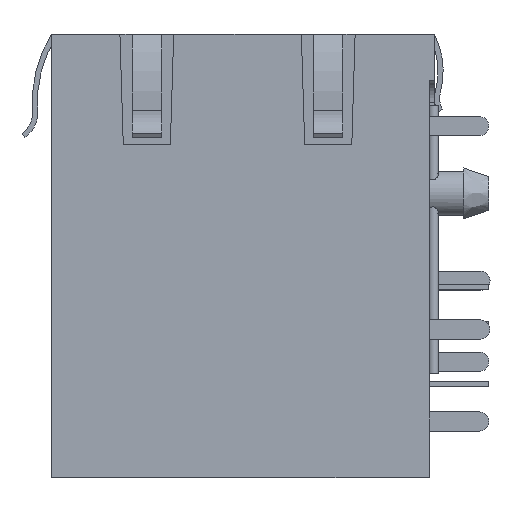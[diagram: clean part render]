
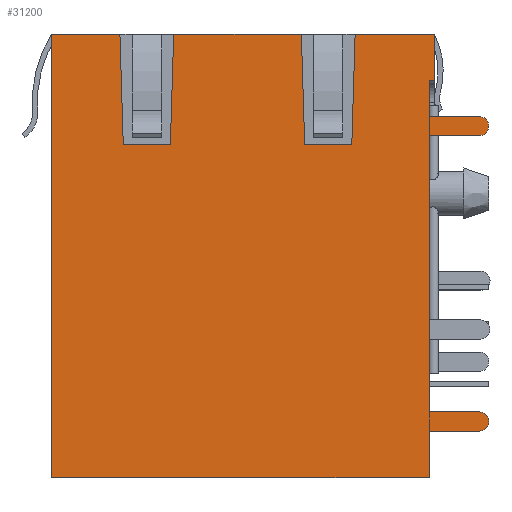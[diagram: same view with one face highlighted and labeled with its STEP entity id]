
A CAD part, left-side view. The second image highlights one B-rep face of the part: STEP entity #31200.
In plain terms, the highlighted planar face has unit normal (-1, 0, 0).
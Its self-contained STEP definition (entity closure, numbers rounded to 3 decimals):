
#66=DIRECTION('',(0.,0.,1.));
#67=VECTOR('',#66,18.76);
#68=CARTESIAN_POINT('',(-43.975,-12.65,-25.64));
#69=LINE('',#68,#67);
#82=DIRECTION('',(0.,0.,1.));
#83=VECTOR('',#82,2.48);
#84=CARTESIAN_POINT('',(-43.975,-12.65,-5.58));
#85=LINE('',#84,#83);
#172=DIRECTION('',(0.,0.,1.));
#173=VECTOR('',#172,3.16);
#174=CARTESIAN_POINT('',(-43.975,-12.65,-30.1));
#175=LINE('',#174,#173);
#2223=DIRECTION('',(0.,1.,0.));
#2224=VECTOR('',#2223,3.4);
#2225=CARTESIAN_POINT('',(-43.975,-16.05,-5.58));
#2226=LINE('',#2225,#2224);
#2227=CARTESIAN_POINT('',(-43.975,-16.05,-6.23));
#2228=DIRECTION('',(-1.,0.,0.));
#2229=DIRECTION('',(0.,0.,-1.));
#2230=AXIS2_PLACEMENT_3D('',#2227,#2228,#2229);
#2232=DIRECTION('',(0.,-1.,0.));
#2233=VECTOR('',#2232,3.4);
#2234=CARTESIAN_POINT('',(-43.975,-12.65,-6.88));
#2235=LINE('',#2234,#2233);
#2236=DIRECTION('',(0.,1.,0.));
#2237=VECTOR('',#2236,3.4);
#2238=CARTESIAN_POINT('',(-43.975,-16.05,-25.64));
#2239=LINE('',#2238,#2237);
#2240=CARTESIAN_POINT('',(-43.975,-16.05,-26.29));
#2241=DIRECTION('',(-1.,0.,0.));
#2242=DIRECTION('',(0.,0.,-1.));
#2243=AXIS2_PLACEMENT_3D('',#2240,#2241,#2242);
#2245=DIRECTION('',(0.,-1.,0.));
#2246=VECTOR('',#2245,3.4);
#2247=CARTESIAN_POINT('',(-43.975,-12.65,-26.94));
#2248=LINE('',#2247,#2246);
#2249=DIRECTION('',(0.,-0.03,-1.));
#2250=VECTOR('',#2249,7.503);
#2251=CARTESIAN_POINT('',(-43.975,8.35,0.));
#2252=LINE('',#2251,#2250);
#2253=DIRECTION('',(0.,-1.,0.));
#2254=VECTOR('',#2253,3.2);
#2255=CARTESIAN_POINT('',(-43.975,8.125,-7.5));
#2256=LINE('',#2255,#2254);
#2257=DIRECTION('',(0.,-0.03,1.));
#2258=VECTOR('',#2257,7.503);
#2259=CARTESIAN_POINT('',(-43.975,4.925,-7.5));
#2260=LINE('',#2259,#2258);
#2261=DIRECTION('',(0.,-0.03,-1.));
#2262=VECTOR('',#2261,7.503);
#2263=CARTESIAN_POINT('',(-43.975,-3.97,0.));
#2264=LINE('',#2263,#2262);
#2265=DIRECTION('',(0.,-1.,0.));
#2266=VECTOR('',#2265,3.2);
#2267=CARTESIAN_POINT('',(-43.975,-4.195,-7.5));
#2268=LINE('',#2267,#2266);
#2269=DIRECTION('',(0.,-0.03,1.));
#2270=VECTOR('',#2269,7.503);
#2271=CARTESIAN_POINT('',(-43.975,-7.395,-7.5));
#2272=LINE('',#2271,#2270);
#2293=DIRECTION('',(0.,-1.,0.));
#2294=VECTOR('',#2293,25.65);
#2295=CARTESIAN_POINT('',(-43.975,13.,-30.1));
#2296=LINE('',#2295,#2294);
#5559=DIRECTION('',(0.,1.,0.));
#5560=VECTOR('',#5559,8.67);
#5561=CARTESIAN_POINT('',(-43.975,-3.97,0.));
#5562=LINE('',#5561,#5560);
#5583=DIRECTION('',(0.,1.,0.));
#5584=VECTOR('',#5583,4.65);
#5585=CARTESIAN_POINT('',(-43.975,8.35,0.));
#5586=LINE('',#5585,#5584);
#5771=DIRECTION('',(0.,1.,0.));
#5772=VECTOR('',#5771,5.38);
#5773=CARTESIAN_POINT('',(-43.975,-13.,0.));
#5774=LINE('',#5773,#5772);
#17819=DIRECTION('',(0.,0.,1.));
#17820=VECTOR('',#17819,30.1);
#17821=CARTESIAN_POINT('',(-43.975,13.,-30.1));
#17822=LINE('',#17821,#17820);
#18879=DIRECTION('',(0.,0.,-1.));
#18880=VECTOR('',#18879,3.1);
#18881=CARTESIAN_POINT('',(-43.975,-13.,0.));
#18882=LINE('',#18881,#18880);
#18995=DIRECTION('',(0.,-1.,0.));
#18996=VECTOR('',#18995,0.35);
#18997=CARTESIAN_POINT('',(-43.975,-12.65,-3.1));
#18998=LINE('',#18997,#18996);
#22486=CARTESIAN_POINT('',(-43.975,-12.65,-30.1));
#22488=VERTEX_POINT('',#22486);
#22489=CARTESIAN_POINT('',(-43.975,13.,-30.1));
#22490=CARTESIAN_POINT('',(-43.975,13.,0.));
#22491=VERTEX_POINT('',#22489);
#22492=VERTEX_POINT('',#22490);
#22859=CARTESIAN_POINT('',(-43.975,-3.97,0.));
#22860=CARTESIAN_POINT('',(-43.975,4.7,0.));
#22861=VERTEX_POINT('',#22859);
#22862=VERTEX_POINT('',#22860);
#22863=CARTESIAN_POINT('',(-43.975,8.35,0.));
#22864=VERTEX_POINT('',#22863);
#23085=CARTESIAN_POINT('',(-43.975,-16.05,-6.88));
#23086=CARTESIAN_POINT('',(-43.975,-16.05,-5.58));
#23087=VERTEX_POINT('',#23085);
#23088=VERTEX_POINT('',#23086);
#23089=CARTESIAN_POINT('',(-43.975,-16.05,-26.94));
#23090=CARTESIAN_POINT('',(-43.975,-16.05,-25.64));
#23091=VERTEX_POINT('',#23089);
#23092=VERTEX_POINT('',#23090);
#23109=CARTESIAN_POINT('',(-43.975,-12.65,-5.58));
#23110=VERTEX_POINT('',#23109);
#23111=CARTESIAN_POINT('',(-43.975,-12.65,-6.88));
#23112=VERTEX_POINT('',#23111);
#23113=CARTESIAN_POINT('',(-43.975,-12.65,-26.94));
#23114=VERTEX_POINT('',#23113);
#23115=CARTESIAN_POINT('',(-43.975,-12.65,-25.64));
#23116=VERTEX_POINT('',#23115);
#23129=CARTESIAN_POINT('',(-43.975,-13.,0.));
#23130=CARTESIAN_POINT('',(-43.975,-13.,-3.1));
#23131=VERTEX_POINT('',#23129);
#23132=VERTEX_POINT('',#23130);
#23149=CARTESIAN_POINT('',(-43.975,-12.65,-3.1));
#23151=VERTEX_POINT('',#23149);
#26773=CARTESIAN_POINT('',(-43.975,-7.62,0.));
#26774=VERTEX_POINT('',#26773);
#28227=CARTESIAN_POINT('',(-43.975,8.125,-7.5));
#28228=CARTESIAN_POINT('',(-43.975,4.925,-7.5));
#28229=VERTEX_POINT('',#28227);
#28230=VERTEX_POINT('',#28228);
#28231=CARTESIAN_POINT('',(-43.975,-4.195,-7.5));
#28232=CARTESIAN_POINT('',(-43.975,-7.395,-7.5));
#28233=VERTEX_POINT('',#28231);
#28234=VERTEX_POINT('',#28232);
#31153=CARTESIAN_POINT('',(-43.975,12.65,-30.1));
#31154=DIRECTION('',(-1.,0.,0.));
#31155=DIRECTION('',(0.,0.,1.));
#31156=AXIS2_PLACEMENT_3D('',#31153,#31154,#31155);
#31157=PLANE('',#31156);
#31158=ORIENTED_EDGE('',*,*,#29424,.F.);
#31160=ORIENTED_EDGE('',*,*,#31159,.F.);
#31162=ORIENTED_EDGE('',*,*,#31161,.F.);
#31164=ORIENTED_EDGE('',*,*,#31163,.F.);
#31165=ORIENTED_EDGE('',*,*,#29416,.F.);
#31167=ORIENTED_EDGE('',*,*,#31166,.F.);
#31169=ORIENTED_EDGE('',*,*,#31168,.F.);
#31170=ORIENTED_EDGE('',*,*,#31145,.F.);
#31171=ORIENTED_EDGE('',*,*,#29468,.F.);
#31173=ORIENTED_EDGE('',*,*,#31172,.F.);
#31175=ORIENTED_EDGE('',*,*,#31174,.T.);
#31177=ORIENTED_EDGE('',*,*,#31176,.F.);
#31179=ORIENTED_EDGE('',*,*,#31178,.T.);
#31181=ORIENTED_EDGE('',*,*,#31180,.T.);
#31183=ORIENTED_EDGE('',*,*,#31182,.T.);
#31185=ORIENTED_EDGE('',*,*,#31184,.F.);
#31187=ORIENTED_EDGE('',*,*,#31186,.T.);
#31189=ORIENTED_EDGE('',*,*,#31188,.T.);
#31191=ORIENTED_EDGE('',*,*,#31190,.T.);
#31193=ORIENTED_EDGE('',*,*,#31192,.F.);
#31195=ORIENTED_EDGE('',*,*,#31194,.T.);
#31197=ORIENTED_EDGE('',*,*,#31196,.F.);
#31198=EDGE_LOOP('',(#31158,#31160,#31162,#31164,#31165,#31167,#31169,#31170,
#31171,#31173,#31175,#31177,#31179,#31181,#31183,#31185,#31187,#31189,#31191,
#31193,#31195,#31197));
#31199=FACE_OUTER_BOUND('',#31198,.F.);
#2231=CIRCLE('',#2230,0.65);
#2244=CIRCLE('',#2243,0.65);
#29416=EDGE_CURVE('',#23116,#23112,#69,.T.);
#29424=EDGE_CURVE('',#23110,#23151,#85,.T.);
#29468=EDGE_CURVE('',#22488,#23114,#175,.T.);
#31145=EDGE_CURVE('',#23114,#23091,#2248,.T.);
#31159=EDGE_CURVE('',#23088,#23110,#2226,.T.);
#31161=EDGE_CURVE('',#23087,#23088,#2231,.T.);
#31163=EDGE_CURVE('',#23112,#23087,#2235,.T.);
#31166=EDGE_CURVE('',#23092,#23116,#2239,.T.);
#31168=EDGE_CURVE('',#23091,#23092,#2244,.T.);
#31172=EDGE_CURVE('',#22491,#22488,#2296,.T.);
#31174=EDGE_CURVE('',#22491,#22492,#17822,.T.);
#31176=EDGE_CURVE('',#22864,#22492,#5586,.T.);
#31178=EDGE_CURVE('',#22864,#28229,#2252,.T.);
#31180=EDGE_CURVE('',#28229,#28230,#2256,.T.);
#31182=EDGE_CURVE('',#28230,#22862,#2260,.T.);
#31184=EDGE_CURVE('',#22861,#22862,#5562,.T.);
#31186=EDGE_CURVE('',#22861,#28233,#2264,.T.);
#31188=EDGE_CURVE('',#28233,#28234,#2268,.T.);
#31190=EDGE_CURVE('',#28234,#26774,#2272,.T.);
#31192=EDGE_CURVE('',#23131,#26774,#5774,.T.);
#31194=EDGE_CURVE('',#23131,#23132,#18882,.T.);
#31196=EDGE_CURVE('',#23151,#23132,#18998,.T.);
#31200=ADVANCED_FACE('',(#31199),#31157,.T.);
